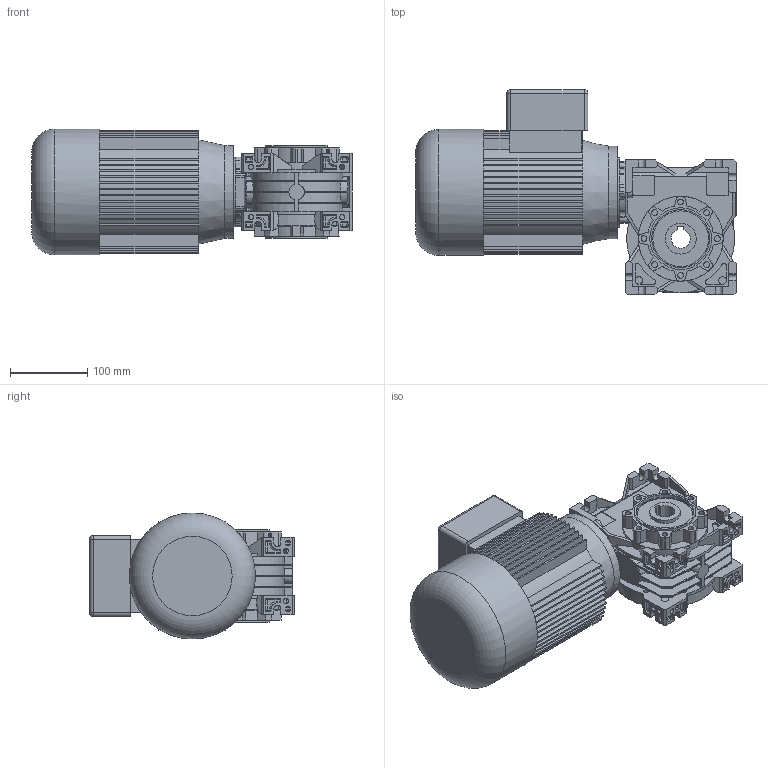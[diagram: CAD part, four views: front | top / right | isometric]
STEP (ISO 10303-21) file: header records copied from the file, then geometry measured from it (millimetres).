
FILE_DESCRIPTION( ( 'Unknown' ), '1' );
FILE_NAME( 'E:/services/configuratordownloads/customers/VARVEL/RT/download/A0424551323E5DA5C0B6A7C34212E1/STEP/A0424551323E5DA5C0B6A7C34212E1.3d.stp', 'Unknown', ( 'Unknown' ), ( 'Unknown' ), 'PSStep 10.1', 'Unknown', ' ' );
FILE_SCHEMA( ( 'AUTOMOTIVE_DESIGN { 1 0 10303 214 1 1 1 1 }' ) );
Length unit declared in the file: millimetre
Products named in the file (1): 539101
Bounding box: 415 x 265 x 163 mm (x, y, z)
Volume: 6344734.9 mm3; surface area: 595802.6 mm2
Topology: 1 solids, 12 shells, 1699 faces, 4307 edges, 2702 vertices
Faces by surface type: plane 871, cylinder 635, sphere 120, torus 39, cone 26, bspline 8
Full cylindrical faces by diameter (mm): 5 x4, 6 x18, 6.5 x12, 7.5 x16, 7.6 x8, 10 x4, 19 x2, 20 x2, 21.5 x1, 25 x1, 40 x2, 45 x1, 52 x2, 52.1 x1, 55 x1, 62 x2, 62.1 x1, 65 x1, 70 x2, 72 x2, 72.1 x1, 75 x2, 78.5 x1, 80 x5, 90 x1, 102 x1, 108 x1, 110 x2, 120 x1, 163 x1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
Entity records: 64612 total; most frequent: CARTESIAN_POINT 10040, DIRECTION 8882, ORIENTED_EDGE 8220, EDGE_CURVE 4110, AXIS2_PLACEMENT_3D 3165, VERTEX_POINT 2635, LINE 2552, VECTOR 2552
